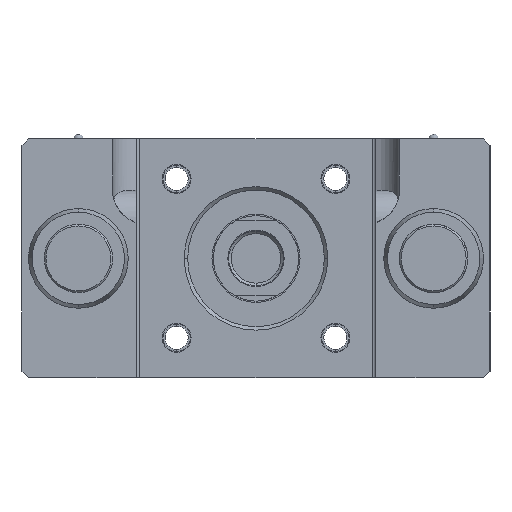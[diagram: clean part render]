
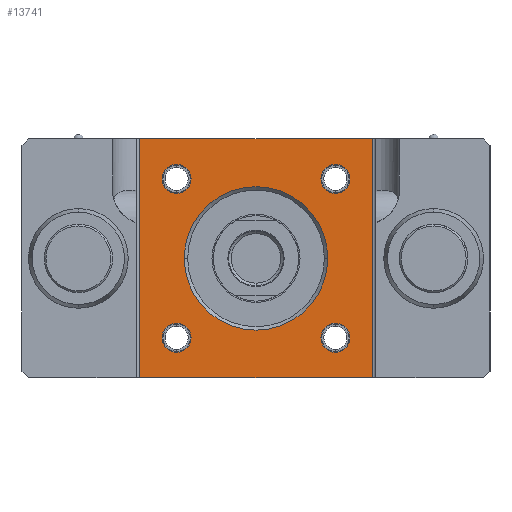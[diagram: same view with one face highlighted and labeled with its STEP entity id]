
A CAD part, left-side view. The second image highlights one B-rep face of the part: STEP entity #13741.
In plain terms, the highlighted planar face has unit normal (-1, 0, 0).
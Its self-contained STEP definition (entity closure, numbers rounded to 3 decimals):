
#173 = VERTEX_POINT ( 'NONE', #19898 ) ;
#179 = VERTEX_POINT ( 'NONE', #19873 ) ;
#498 = VERTEX_POINT ( 'NONE', #20513 ) ;
#501 = VERTEX_POINT ( 'NONE', #20507 ) ;
#513 = EDGE_CURVE ( 'NONE', #498, #501, #20549, .T. ) ;
#10284 = CARTESIAN_POINT ( 'NONE',  ( 4., 19., 58.25 ) ) ;
#10285 = DIRECTION ( 'NONE',  ( 0., 1., 0. ) ) ;
#10286 = DIRECTION ( 'NONE',  ( 1., 0., 0. ) ) ;
#10287 = CARTESIAN_POINT ( 'NONE',  ( 4., 23.25, 58.25 ) ) ;
#10288 = AXIS2_PLACEMENT_3D ( 'NONE', #10287, #10286, #10285 ) ;
#10289 = CIRCLE ( 'NONE', #10288, 4.25 ) ;
#10290 = CARTESIAN_POINT ( 'NONE',  ( 4., 27.5, 58.25 ) ) ;
#10791 = DIRECTION ( 'NONE',  ( 0., 1., 0. ) ) ;
#10792 = DIRECTION ( 'NONE',  ( 1., 0., 0. ) ) ;
#10793 = CARTESIAN_POINT ( 'NONE',  ( 4., 23.25, 11.75 ) ) ;
#10794 = AXIS2_PLACEMENT_3D ( 'NONE', #10793, #10792, #10791 ) ;
#10795 = CIRCLE ( 'NONE', #10794, 4.25 ) ;
#11967 = VERTEX_POINT ( 'NONE', #21772 ) ;
#12038 = VERTEX_POINT ( 'NONE', #21908 ) ;
#12150 = EDGE_CURVE ( 'NONE', #12038, #11967, #22110, .T. ) ;
#12910 = VERTEX_POINT ( 'NONE', #23594 ) ;
#12912 = EDGE_CURVE ( 'NONE', #12913, #12910, #23593, .T. ) ;
#12913 = VERTEX_POINT ( 'NONE', #23588 ) ;
#13479 = EDGE_CURVE ( 'NONE', #13480, #13507, #24607, .T. ) ;
#13480 = VERTEX_POINT ( 'NONE', #24603 ) ;
#13507 = VERTEX_POINT ( 'NONE', #24682 ) ;
#13692 = VERTEX_POINT ( 'NONE', #25013 ) ;
#13694 = EDGE_CURVE ( 'NONE', #13692, #13695, #25012, .T. ) ;
#13695 = VERTEX_POINT ( 'NONE', #25008 ) ;
#13718 = ORIENTED_EDGE ( 'NONE', *, *, #12150, .T. ) ;
#13719 = EDGE_LOOP ( 'NONE', ( #13720, #13722 ) ) ;
#13720 = ORIENTED_EDGE ( 'NONE', *, *, #13721, .T. ) ;
#13721 = EDGE_CURVE ( 'NONE', #173, #179, #25034, .T. ) ;
#13722 = ORIENTED_EDGE ( 'NONE', *, *, #33399, .T. ) ;
#13723 = EDGE_LOOP ( 'NONE', ( #13724, #13726 ) ) ;
#13724 = ORIENTED_EDGE ( 'NONE', *, *, #13725, .T. ) ;
#13725 = EDGE_CURVE ( 'NONE', #33139, #33142, #25029, .T. ) ;
#13726 = ORIENTED_EDGE ( 'NONE', *, *, #33140, .T. ) ;
#13727 = EDGE_LOOP ( 'NONE', ( #13728, #13730 ) ) ;
#13728 = ORIENTED_EDGE ( 'NONE', *, *, #13729, .T. ) ;
#13729 = EDGE_CURVE ( 'NONE', #501, #498, #25022, .T. ) ;
#13730 = ORIENTED_EDGE ( 'NONE', *, *, #513, .T. ) ;
#13731 = EDGE_LOOP ( 'NONE', ( #13786, #13787 ) ) ;
#13741 = ADVANCED_FACE ( 'NONE', ( #25075, #25074, #25073, #25072, #25071, #25070 ), #25069, .F. ) ;
#13742 = EDGE_LOOP ( 'NONE', ( #13743, #13718 ) ) ;
#13743 = ORIENTED_EDGE ( 'NONE', *, *, #13744, .T. ) ;
#13744 = EDGE_CURVE ( 'NONE', #11967, #12038, #25064, .T. ) ;
#13786 = ORIENTED_EDGE ( 'NONE', *, *, #12912, .T. ) ;
#13787 = ORIENTED_EDGE ( 'NONE', *, *, #13788, .T. ) ;
#13788 = EDGE_CURVE ( 'NONE', #12910, #12913, #25136, .T. ) ;
#13789 = EDGE_LOOP ( 'NONE', ( #13790, #13791, #13793, #13794 ) ) ;
#13790 = ORIENTED_EDGE ( 'NONE', *, *, #13694, .F. ) ;
#13791 = ORIENTED_EDGE ( 'NONE', *, *, #13792, .T. ) ;
#13792 = EDGE_CURVE ( 'NONE', #13692, #13480, #25131, .T. ) ;
#13793 = ORIENTED_EDGE ( 'NONE', *, *, #13479, .T. ) ;
#13794 = ORIENTED_EDGE ( 'NONE', *, *, #13795, .T. ) ;
#13795 = EDGE_CURVE ( 'NONE', #13507, #13695, #25127, .T. ) ;
#19873 = CARTESIAN_POINT ( 'NONE',  ( 4., 19., 11.75 ) ) ;
#19898 = CARTESIAN_POINT ( 'NONE',  ( 4., 27.5, 11.75 ) ) ;
#20507 = CARTESIAN_POINT ( 'NONE',  ( 4., -19., 58.25 ) ) ;
#20513 = CARTESIAN_POINT ( 'NONE',  ( 4., -27.5, 58.25 ) ) ;
#20545 = DIRECTION ( 'NONE',  ( 0., 1., 0. ) ) ;
#20546 = DIRECTION ( 'NONE',  ( 1., 0., 0. ) ) ;
#20547 = CARTESIAN_POINT ( 'NONE',  ( 4., -23.25, 58.25 ) ) ;
#20548 = AXIS2_PLACEMENT_3D ( 'NONE', #20547, #20546, #20545 ) ;
#20549 = CIRCLE ( 'NONE', #20548, 4.25 ) ;
#21772 = CARTESIAN_POINT ( 'NONE',  ( 4., -19., 11.75 ) ) ;
#21908 = CARTESIAN_POINT ( 'NONE',  ( 4., -27.5, 11.75 ) ) ;
#22106 = DIRECTION ( 'NONE',  ( 0., 1., 0. ) ) ;
#22107 = DIRECTION ( 'NONE',  ( 1., 0., 0. ) ) ;
#22108 = CARTESIAN_POINT ( 'NONE',  ( 4., -23.25, 11.75 ) ) ;
#22109 = AXIS2_PLACEMENT_3D ( 'NONE', #22108, #22107, #22106 ) ;
#22110 = CIRCLE ( 'NONE', #22109, 4.25 ) ;
#23588 = CARTESIAN_POINT ( 'NONE',  ( 4., -21., 35. ) ) ;
#23589 = DIRECTION ( 'NONE',  ( 0., 1., 0. ) ) ;
#23590 = DIRECTION ( 'NONE',  ( 1., 0., 0. ) ) ;
#23591 = CARTESIAN_POINT ( 'NONE',  ( 4., 0., 35. ) ) ;
#23592 = AXIS2_PLACEMENT_3D ( 'NONE', #23591, #23590, #23589 ) ;
#23593 = CIRCLE ( 'NONE', #23592, 21. ) ;
#23594 = CARTESIAN_POINT ( 'NONE',  ( 4., 21., 35. ) ) ;
#24603 = CARTESIAN_POINT ( 'NONE',  ( 4., -34.1, 70. ) ) ;
#24604 = DIRECTION ( 'NONE',  ( 0., 1., 0. ) ) ;
#24605 = VECTOR ( 'NONE', #24604, 1000. ) ;
#24606 = CARTESIAN_POINT ( 'NONE',  ( 4., 35.1, 70. ) ) ;
#24607 = LINE ( 'NONE', #24606, #24605 ) ;
#24682 = CARTESIAN_POINT ( 'NONE',  ( 4., 34.1, 70. ) ) ;
#25008 = CARTESIAN_POINT ( 'NONE',  ( 4., 34.1, 0. ) ) ;
#25009 = DIRECTION ( 'NONE',  ( 0., 1., 0. ) ) ;
#25010 = VECTOR ( 'NONE', #25009, 1000. ) ;
#25011 = CARTESIAN_POINT ( 'NONE',  ( 4., 35.1, 0. ) ) ;
#25012 = LINE ( 'NONE', #25011, #25010 ) ;
#25013 = CARTESIAN_POINT ( 'NONE',  ( 4., -34.1, 0. ) ) ;
#25018 = DIRECTION ( 'NONE',  ( 0., 1., 0. ) ) ;
#25019 = DIRECTION ( 'NONE',  ( 1., 0., 0. ) ) ;
#25020 = CARTESIAN_POINT ( 'NONE',  ( 4., -23.25, 58.25 ) ) ;
#25021 = AXIS2_PLACEMENT_3D ( 'NONE', #25020, #25019, #25018 ) ;
#25022 = CIRCLE ( 'NONE', #25021, 4.25 ) ;
#25025 = DIRECTION ( 'NONE',  ( 0., 1., 0. ) ) ;
#25026 = DIRECTION ( 'NONE',  ( 1., 0., 0. ) ) ;
#25027 = CARTESIAN_POINT ( 'NONE',  ( 4., 23.25, 58.25 ) ) ;
#25028 = AXIS2_PLACEMENT_3D ( 'NONE', #25027, #25026, #25025 ) ;
#25029 = CIRCLE ( 'NONE', #25028, 4.25 ) ;
#25030 = DIRECTION ( 'NONE',  ( 0., 1., 0. ) ) ;
#25031 = DIRECTION ( 'NONE',  ( 1., 0., 0. ) ) ;
#25032 = CARTESIAN_POINT ( 'NONE',  ( 4., 23.25, 11.75 ) ) ;
#25033 = AXIS2_PLACEMENT_3D ( 'NONE', #25032, #25031, #25030 ) ;
#25034 = CIRCLE ( 'NONE', #25033, 4.25 ) ;
#25060 = DIRECTION ( 'NONE',  ( 0., 1., 0. ) ) ;
#25061 = DIRECTION ( 'NONE',  ( 1., 0., 0. ) ) ;
#25062 = CARTESIAN_POINT ( 'NONE',  ( 4., -23.25, 11.75 ) ) ;
#25063 = AXIS2_PLACEMENT_3D ( 'NONE', #25062, #25061, #25060 ) ;
#25064 = CIRCLE ( 'NONE', #25063, 4.25 ) ;
#25065 = DIRECTION ( 'NONE',  ( 0., 1., 0. ) ) ;
#25066 = DIRECTION ( 'NONE',  ( 1., 0., 0. ) ) ;
#25067 = CARTESIAN_POINT ( 'NONE',  ( 4., 35.1, 0. ) ) ;
#25068 = AXIS2_PLACEMENT_3D ( 'NONE', #25067, #25066, #25065 ) ;
#25069 = PLANE ( 'NONE',  #25068 ) ;
#25070 = FACE_OUTER_BOUND ( 'NONE', #13789, .T. ) ;
#25071 = FACE_BOUND ( 'NONE', #13731, .T. ) ;
#25072 = FACE_BOUND ( 'NONE', #13727, .T. ) ;
#25073 = FACE_BOUND ( 'NONE', #13723, .T. ) ;
#25074 = FACE_BOUND ( 'NONE', #13719, .T. ) ;
#25075 = FACE_BOUND ( 'NONE', #13742, .T. ) ;
#25124 = DIRECTION ( 'NONE',  ( 0., 0., -1. ) ) ;
#25125 = VECTOR ( 'NONE', #25124, 1000. ) ;
#25126 = CARTESIAN_POINT ( 'NONE',  ( 4., 34.1, 0. ) ) ;
#25127 = LINE ( 'NONE', #25126, #25125 ) ;
#25128 = DIRECTION ( 'NONE',  ( 0., 0., 1. ) ) ;
#25129 = VECTOR ( 'NONE', #25128, 1000. ) ;
#25130 = CARTESIAN_POINT ( 'NONE',  ( 4., -34.1, 70. ) ) ;
#25131 = LINE ( 'NONE', #25130, #25129 ) ;
#25132 = DIRECTION ( 'NONE',  ( 0., 1., 0. ) ) ;
#25133 = DIRECTION ( 'NONE',  ( 1., 0., 0. ) ) ;
#25134 = CARTESIAN_POINT ( 'NONE',  ( 4., 0., 35. ) ) ;
#25135 = AXIS2_PLACEMENT_3D ( 'NONE', #25134, #25133, #25132 ) ;
#25136 = CIRCLE ( 'NONE', #25135, 21. ) ;
#33139 = VERTEX_POINT ( 'NONE', #10290 ) ;
#33140 = EDGE_CURVE ( 'NONE', #33142, #33139, #10289, .T. ) ;
#33142 = VERTEX_POINT ( 'NONE', #10284 ) ;
#33399 = EDGE_CURVE ( 'NONE', #179, #173, #10795, .T. ) ;
